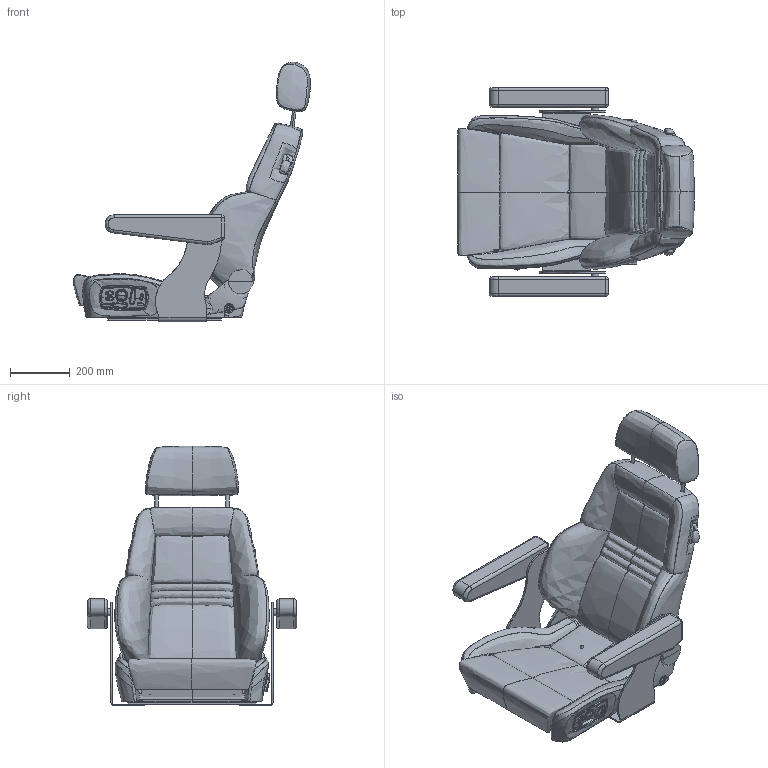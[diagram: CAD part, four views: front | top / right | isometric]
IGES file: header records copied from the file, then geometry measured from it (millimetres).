
Global section: file name: F:\Documenten\Tekeningen\SUN MARINE SEATS\TEKENINGEN\RECARO\ASSY_ARCTIC_720.igs; native system: NX V8.5; preprocessor: SIEMENS PLM Software NX 8.5; date: 20130917.134653; units: millimetre
Bounding box: 794.17 x 701 x 870.58 mm (x, y, z)
Surface area: 2739684.7 mm2 (no closed solid volume)
Topology: 0 solids, 0 shells, 641 faces, 11357 edges, 15689 vertices
Faces by surface type: bspline 641
